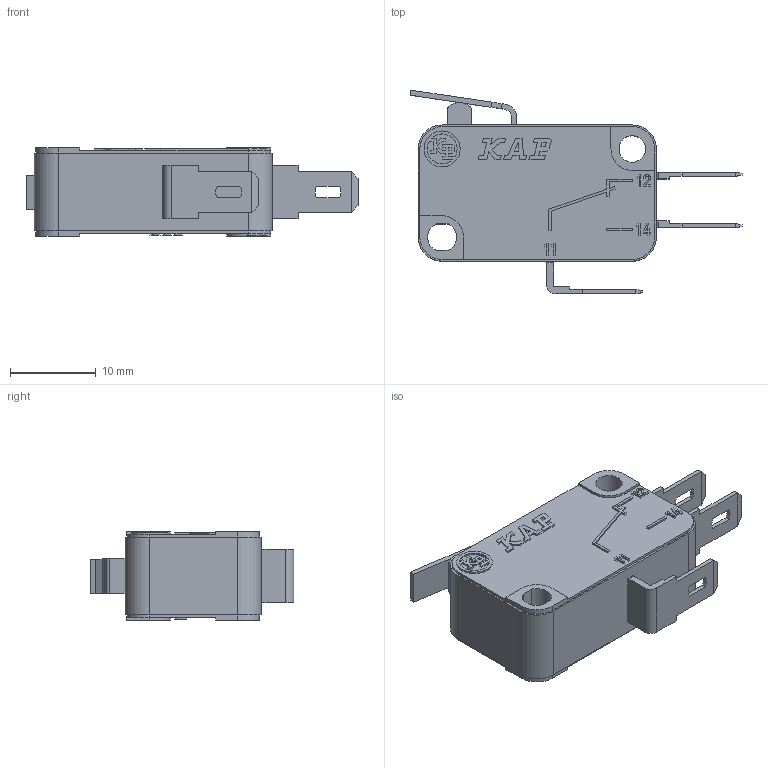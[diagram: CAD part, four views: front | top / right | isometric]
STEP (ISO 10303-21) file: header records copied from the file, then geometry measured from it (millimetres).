
FILE_DESCRIPTION(('Microrutor Miniatura Alavanca Rgida Plana'),'2;1');
FILE_NAME('E:\WorkFolder\Serie\MV\STEP\kp_mv_mv#g2ca#_step_r00.stp','2010-08-24T13:52:18',('DIE'),('KAP'),'Autodesk Inventor 10','Autodesk Inventor 10','Direitos reservados. Proibido reproduo, cedncia ou revelao de contedo a terceiros, salvo com autorizao.');
FILE_SCHEMA(('AUTOMOTIVE_DESIGN { 1 0 10303 214 1 1 1 1 }'));
Length unit declared in the file: millimetre
Products named in the file (4): MV#G2CA#; MV_Involucro_Normal; MV_Atuador_G1_G2; MV_Terminal_CA#
Assembly tree (3 placements, depth 2):
  MV#G2CA#
    MV_Involucro_Normal
    MV_Atuador_G1_G2
    MV_Terminal_CA#
Bounding box: 38.75 x 23.77 x 10.3 mm (x, y, z)
Volume: 4235.5 mm3; surface area: 2626.5 mm2
Topology: 5 solids, 5 shells, 430 faces, 1147 edges, 761 vertices
Faces by surface type: plane 369, cylinder 61
Full cylindrical faces by diameter (mm): 3.1 x1, 4.2 x1
Entity records: 13314 total; most frequent: CARTESIAN_POINT 2341, ORIENTED_EDGE 2288, DIRECTION 2140, EDGE_CURVE 1144, VECTOR 1022, LINE 1022, VERTEX_POINT 760, AXIS2_PLACEMENT_3D 559
